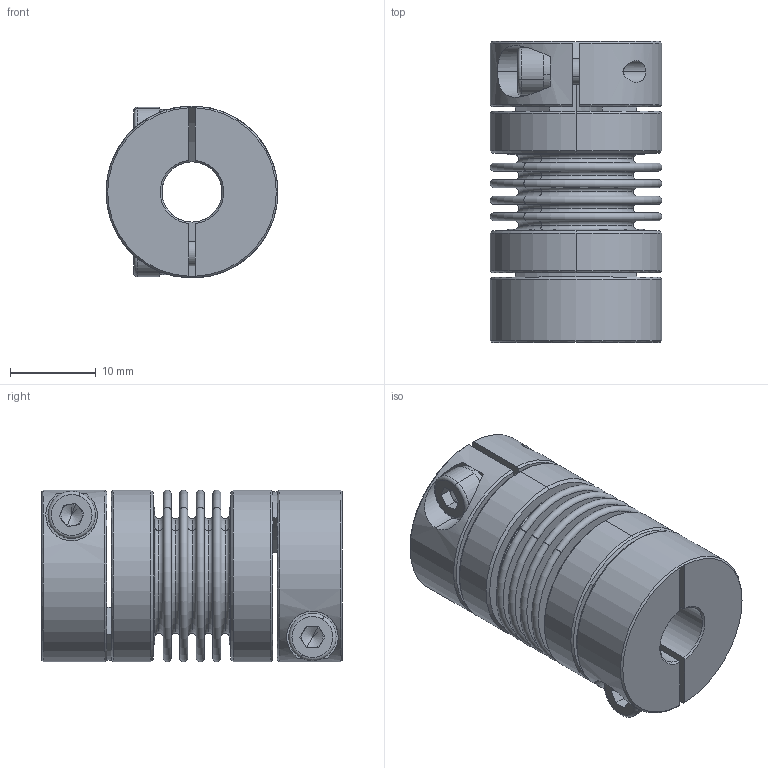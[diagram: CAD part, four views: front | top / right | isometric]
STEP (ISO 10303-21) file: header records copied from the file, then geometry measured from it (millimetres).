
FILE_DESCRIPTION (( 'STEP AP203' ), '1' );
FILE_NAME ('LB-B-D20L34-7-9.525.STEP', '2021-11-04T01:43:05', ( '' ), ( '' ), 'SwSTEP 2.0', 'SolidWorks 2018', '' );
FILE_SCHEMA (( 'CONFIG_CONTROL_DESIGN' ));
Length unit declared in the file: millimetre
Products named in the file (2): 零件4^LB-B-D20L34 波纹管联轴器-组装体; LB-B-D20L34-7-9.525
Assembly tree (1 placements, depth 2):
  LB-B-D20L34-7-9.525
    零件4^LB-B-D20L34 波纹管联轴器-组装体
Bounding box: 20 x 35 x 20 mm (x, y, z)
Volume: 5593.1 mm3; surface area: 9460.6 mm2
Topology: 1 solids, 1 shells, 246 faces, 566 edges, 350 vertices
Faces by surface type: plane 84, torus 68, cylinder 60, cone 34
Entity records: 7446 total; most frequent: CARTESIAN_POINT 1462, DIRECTION 1370, ORIENTED_EDGE 1124, AXIS2_PLACEMENT_3D 602, EDGE_CURVE 562, CIRCLE 352, VERTEX_POINT 350, EDGE_LOOP 288
